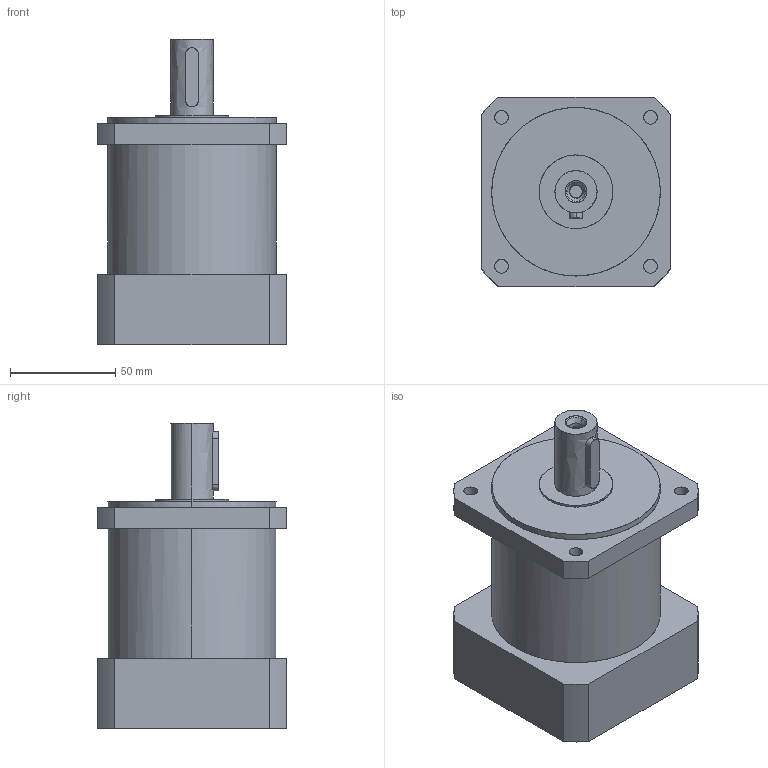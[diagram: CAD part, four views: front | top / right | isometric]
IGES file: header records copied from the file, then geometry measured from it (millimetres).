
Start section: Parasolid data in IGES format
Global section: file name: PLE80-90_1.igs; native system: Parasolid(11.0); preprocessor: Pariges 3.0; author: noname; organization: noname; date: 19991109.083312; units: millimetre
Bounding box: 90 x 90 x 145 mm (x, y, z)
Surface area: 59818.9 mm2 (no closed solid volume)
Topology: 0 solids, 0 shells, 74 faces, 1027 edges, 1027 vertices
Faces by surface type: bspline 74
